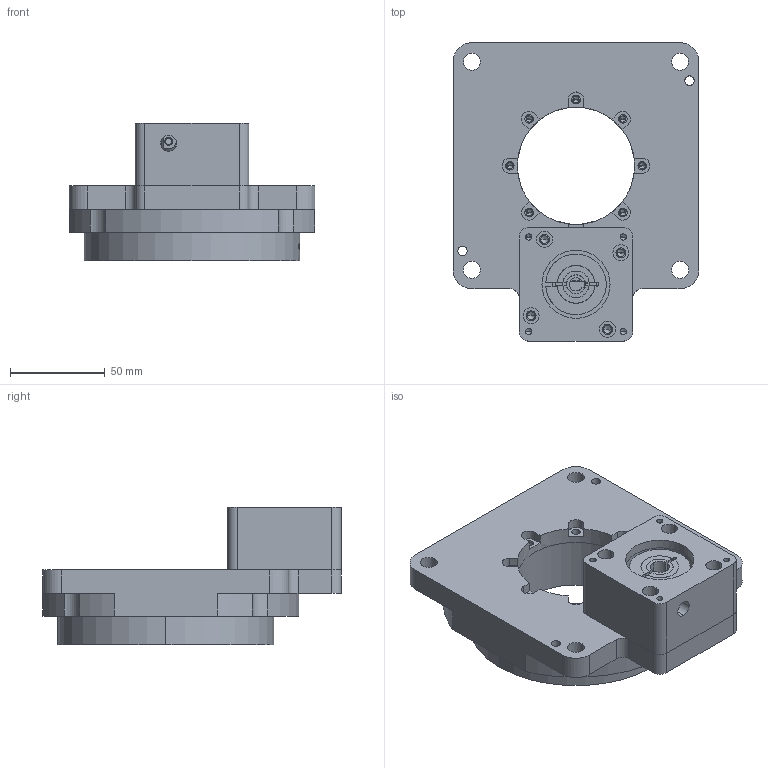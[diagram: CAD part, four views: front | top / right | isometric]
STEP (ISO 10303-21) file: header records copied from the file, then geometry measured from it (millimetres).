
FILE_DESCRIPTION (( 'STEP AP203' ), '1' );
FILE_NAME ('NDG130-18¨B¶i.STEP', '2017-10-14T14:28:55', ( 'SkyUser' ), ( 'ITianKong.Com' ), 'SwSTEP 2.0', 'SolidWorks 2013', '' );
FILE_SCHEMA (( 'CONFIG_CONTROL_DESIGN' ));
Length unit declared in the file: millimetre
Products named in the file (1): NDG130-18步進
Bounding box: 130 x 157.7 x 72.5 mm (x, y, z)
Volume: 457356.7 mm3; surface area: 133980.4 mm2
Topology: 8 solids, 8 shells, 422 faces, 1062 edges, 657 vertices
Faces by surface type: cylinder 230, plane 112, cone 68, torus 8, bspline 4
Entity records: 14616 total; most frequent: CARTESIAN_POINT 4168, DIRECTION 2342, ORIENTED_EDGE 2016, EDGE_CURVE 1008, AXIS2_PLACEMENT_3D 938, VERTEX_POINT 657, EDGE_LOOP 537, CIRCLE 519
